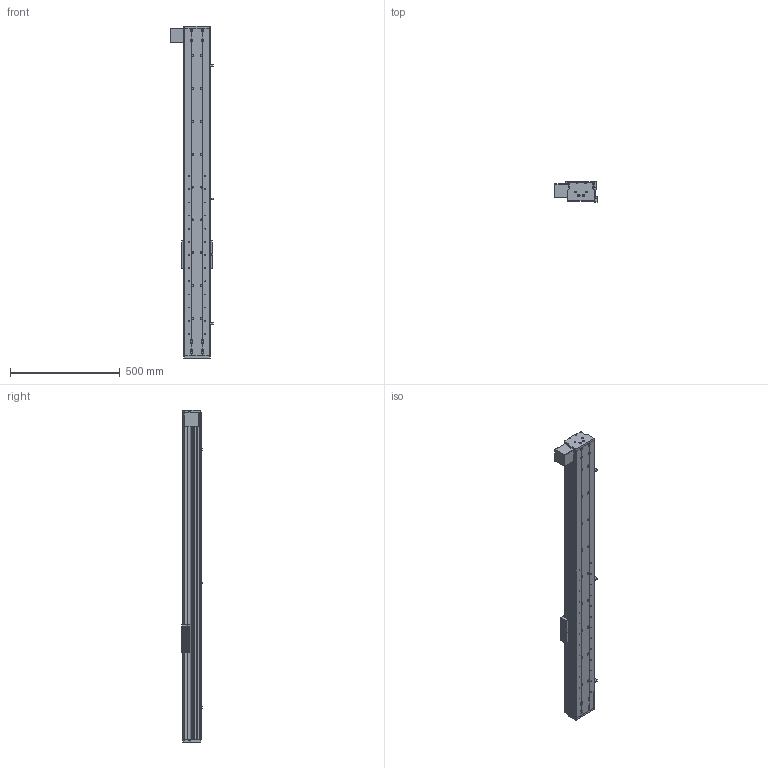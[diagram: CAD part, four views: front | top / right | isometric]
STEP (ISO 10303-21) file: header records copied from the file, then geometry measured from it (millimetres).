
FILE_DESCRIPTION (( 'STEP AP214' ), '1' );
FILE_NAME ('CF120B-D-1200-FW.STEP', '2020-01-15T07:32:26', ( '微软用户' ), ( '微软中国' ), 'SwSTEP 2.0', 'SolidWorks 2016', '' );
FILE_SCHEMA (( 'AUTOMOTIVE_DESIGN' ));
Length unit declared in the file: millimetre
Products named in the file (14): CF120B裔啣-1200; CF120B賑雄啣; CF120-B賑雄輸; EGR15絳寢-1200; EGH-15-CABZnew; CF120B臏倰第-1200; CF120B-D-1200-FW; 嫖萇羲壽; 75-86-95癹弇羲壽覜茼え; 6060-3232源臏奪-植雄釱; 6060-3232源臏奪-萇儂釱; 6060-3232源臏奪-翋雄釱; CF120B耜啣萇儂傷; CF120B耜啣
Assembly tree (19 placements, depth 2):
  CF120B-D-1200-FW
    CF120B臏倰第-1200
    EGH-15-CABZnew  x4
    EGR15絳寢-1200  x2
    CF120-B賑雄輸
    CF120B賑雄啣
    CF120B裔啣-1200
    CF120B耜啣
    CF120B耜啣萇儂傷
    6060-3232源臏奪-翋雄釱
    6060-3232源臏奪-萇儂釱
    6060-3232源臏奪-植雄釱
    75-86-95癹弇羲壽覜茼え
    嫖萇羲壽  x3
Bounding box: 193.1 x 93.85 x 1515 mm (x, y, z)
Volume: 5628292.8 mm3; surface area: 2075743.7 mm2
Topology: 15 solids, 67 shells, 7463 faces, 28202 edges, 19400 vertices
Faces by surface type: plane 3648, bspline 2348, cylinder 1115, cone 128, torus 128, sphere 96
Entity records: 135730 total; most frequent: CARTESIAN_POINT 42879, ORIENTED_EDGE 16232, DIRECTION 13053, EDGE_CURVE 9240, VERTEX_POINT 6317, LINE 5371, VECTOR 5371, AXIS2_PLACEMENT_3D 3841
